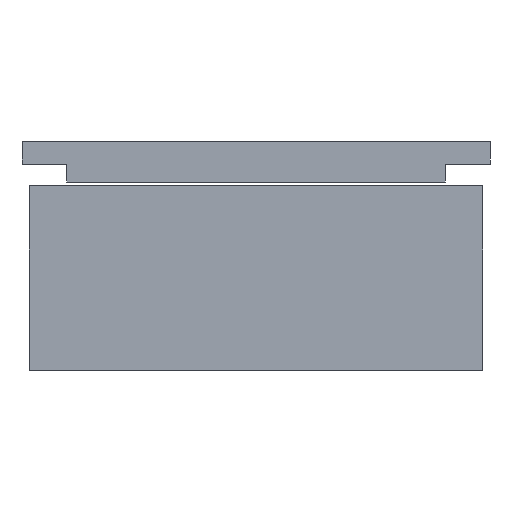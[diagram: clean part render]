
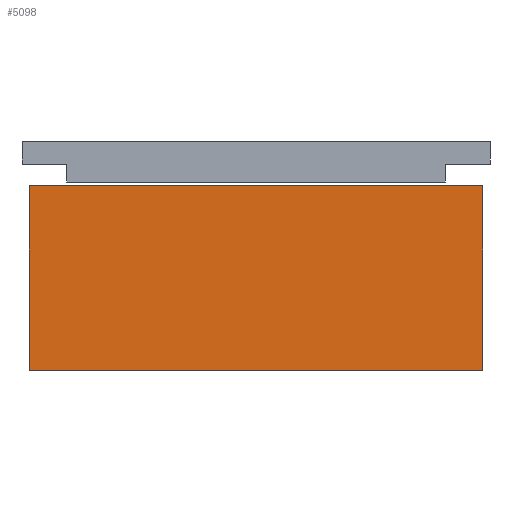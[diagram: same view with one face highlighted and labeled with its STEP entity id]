
A CAD part, left-side view. The second image highlights one B-rep face of the part: STEP entity #5098.
In plain terms, the highlighted planar face has unit normal (-1, 0, 0).
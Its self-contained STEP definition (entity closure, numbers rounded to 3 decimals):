
#133 = VECTOR ( 'NONE', #3695, 1000. ) ;
#170 = ORIENTED_EDGE ( 'NONE', *, *, #1394, .F. ) ;
#229 = DIRECTION ( 'NONE',  ( 0., 0., -1. ) ) ;
#233 = ORIENTED_EDGE ( 'NONE', *, *, #1307, .F. ) ;
#415 = CARTESIAN_POINT ( 'NONE',  ( -98., 60.5, 49.3 ) ) ;
#418 = FACE_OUTER_BOUND ( 'NONE', #478, .T. ) ;
#467 = EDGE_CURVE ( 'NONE', #1379, #1859, #4714, .T. ) ;
#478 = EDGE_LOOP ( 'NONE', ( #4207, #233, #170, #3843 ) ) ;
#846 = AXIS2_PLACEMENT_3D ( 'NONE', #4098, #1992, #229 ) ;
#861 = VERTEX_POINT ( 'NONE', #2856 ) ;
#1258 = CARTESIAN_POINT ( 'NONE',  ( -98., -60.5, 49.3 ) ) ;
#1307 = EDGE_CURVE ( 'NONE', #2067, #861, #3548, .T. ) ;
#1379 = VERTEX_POINT ( 'NONE', #415 ) ;
#1394 = EDGE_CURVE ( 'NONE', #1379, #2067, #2211, .T. ) ;
#1487 = CARTESIAN_POINT ( 'NONE',  ( -98., -60.5, 0. ) ) ;
#1859 = VERTEX_POINT ( 'NONE', #5317 ) ;
#1992 = DIRECTION ( 'NONE',  ( 1., 0., 0. ) ) ;
#2065 = CARTESIAN_POINT ( 'NONE',  ( -98., 60.5, 49.3 ) ) ;
#2067 = VERTEX_POINT ( 'NONE', #4609 ) ;
#2211 = LINE ( 'NONE', #1258, #5256 ) ;
#2476 = CARTESIAN_POINT ( 'NONE',  ( -98., -60.5, 49.3 ) ) ;
#2486 = DIRECTION ( 'NONE',  ( 0., 0., -1. ) ) ;
#2497 = DIRECTION ( 'NONE',  ( 0., -1., 0. ) ) ;
#2856 = CARTESIAN_POINT ( 'NONE',  ( -98., -60.5, 0. ) ) ;
#2961 = LINE ( 'NONE', #1487, #5138 ) ;
#3548 = LINE ( 'NONE', #2476, #133 ) ;
#3667 = PLANE ( 'NONE',  #846 ) ;
#3695 = DIRECTION ( 'NONE',  ( 0., 0., -1. ) ) ;
#3843 = ORIENTED_EDGE ( 'NONE', *, *, #467, .T. ) ;
#3924 = VECTOR ( 'NONE', #2486, 1000. ) ;
#3949 = DIRECTION ( 'NONE',  ( 0., -1., 0. ) ) ;
#4098 = CARTESIAN_POINT ( 'NONE',  ( -98., -60.5, 49.3 ) ) ;
#4207 = ORIENTED_EDGE ( 'NONE', *, *, #4521, .T. ) ;
#4521 = EDGE_CURVE ( 'NONE', #1859, #861, #2961, .T. ) ;
#4609 = CARTESIAN_POINT ( 'NONE',  ( -98., -60.5, 49.3 ) ) ;
#4714 = LINE ( 'NONE', #2065, #3924 ) ;
#5098 = ADVANCED_FACE ( 'NONE', ( #418 ), #3667, .F. ) ;
#5138 = VECTOR ( 'NONE', #3949, 1000. ) ;
#5256 = VECTOR ( 'NONE', #2497, 1000. ) ;
#5317 = CARTESIAN_POINT ( 'NONE',  ( -98., 60.5, 0. ) ) ;
